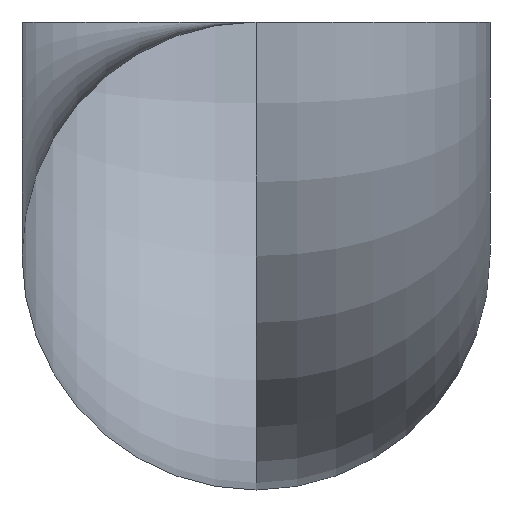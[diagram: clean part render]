
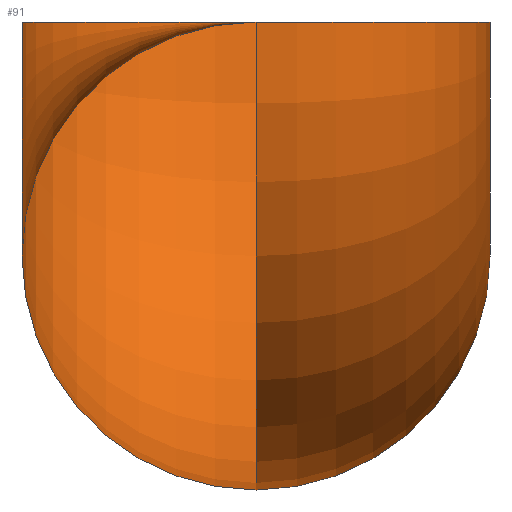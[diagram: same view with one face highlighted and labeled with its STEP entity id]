
A CAD part, front view. The second image highlights one B-rep face of the part: STEP entity #91.
In plain terms, the highlighted toroidal (fillet/blend) face has major radius 5 mm and minor radius 5 mm.
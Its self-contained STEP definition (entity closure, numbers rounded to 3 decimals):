
#1=CARTESIAN_POINT('',(0.,0.,0.));
#2=DIRECTION('',(0.,-1.,0.));
#3=DIRECTION('',(0.,0.,1.));
#4=AXIS2_PLACEMENT_3D('',#1,#2,#3);
#5=TOROIDAL_SURFACE('',#4,5.,5.);
#10=CARTESIAN_POINT('',(-10.,0.,0.));
#11=VERTEX_POINT('',#10);
#12=CARTESIAN_POINT('',(0.,0.,10.));
#13=VERTEX_POINT('',#12);
#14=CARTESIAN_POINT('',(0.,0.,-10.));
#15=VERTEX_POINT('',#14);
#16=CARTESIAN_POINT('',(0.,0.,0.));
#17=VERTEX_POINT('',#16);
#18=CARTESIAN_POINT('',(-5.,5.,0.));
#19=VERTEX_POINT('',#18);
#20=CARTESIAN_POINT('',(0.,5.,5.));
#21=VERTEX_POINT('',#20);
#30=CIRCLE('',#4,10.);
#31=EDGE_CURVE('',#11,#15,#30,.T.);
#32=EDGE_CURVE('',#13,#11,#30,.T.);
#40=CARTESIAN_POINT('',(0.,0.,-5.));
#41=DIRECTION('',(-1.,0.,0.));
#42=DIRECTION('',(0.,0.,-1.));
#43=AXIS2_PLACEMENT_3D('',#40,#41,#42);
#44=CIRCLE('',#43,5.);
#45=EDGE_CURVE('',#15,#17,#44,.T.);
#46=EDGE_CURVE('',#17,#15,#44,.T.);
#50=CARTESIAN_POINT('',(-5.,0.,0.));
#51=DIRECTION('',(0.,0.,-1.));
#52=DIRECTION('',(-0.707,-0.707,0.));
#53=AXIS2_PLACEMENT_3D('',#50,#51,#52);
#54=CIRCLE('',#53,5.);
#55=EDGE_CURVE('',#11,#19,#54,.T.);
#60=CARTESIAN_POINT('',(0.,5.,0.));
#61=DIRECTION('',(0.,-1.,0.));
#62=DIRECTION('',(0.,0.,-1.));
#63=AXIS2_PLACEMENT_3D('',#60,#61,#62);
#64=CIRCLE('',#63,5.);
#65=EDGE_CURVE('',#21,#19,#64,.T.);
#70=CARTESIAN_POINT('',(0.,0.,5.));
#71=DIRECTION('',(1.,0.,0.));
#72=DIRECTION('',(0.,0.,1.));
#73=AXIS2_PLACEMENT_3D('',#70,#71,#72);
#74=CIRCLE('',#73,5.);
#75=EDGE_CURVE('',#17,#21,#74,.T.);
#76=EDGE_CURVE('',#13,#17,#74,.T.);
#80=ORIENTED_EDGE('',*,*,#32,.F.);
#81=ORIENTED_EDGE('',*,*,#76,.T.);
#82=ORIENTED_EDGE('',*,*,#75,.T.);
#83=ORIENTED_EDGE('',*,*,#65,.T.);
#84=ORIENTED_EDGE('',*,*,#55,.F.);
#85=ORIENTED_EDGE('',*,*,#31,.T.);
#86=ORIENTED_EDGE('',*,*,#46,.F.);
#87=ORIENTED_EDGE('',*,*,#45,.F.);
#88=ORIENTED_EDGE('',*,*,#31,.F.);
#89=EDGE_LOOP('',(#80,#81,#82,#83,#84,#85,#86,#87,#88));
#90=FACE_OUTER_BOUND('',#89,.T.);
#91=ADVANCED_FACE('',(#90),#5,.F.);
